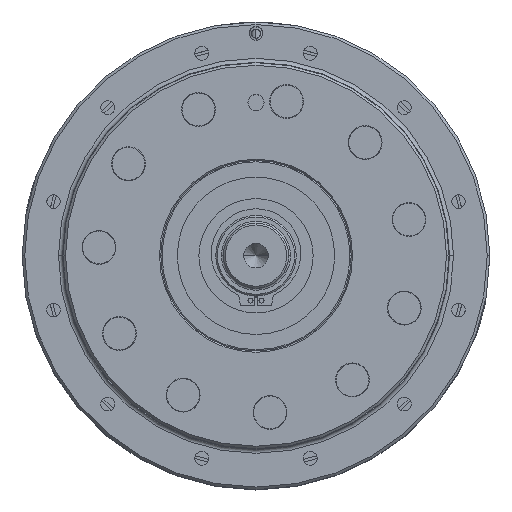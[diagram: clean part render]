
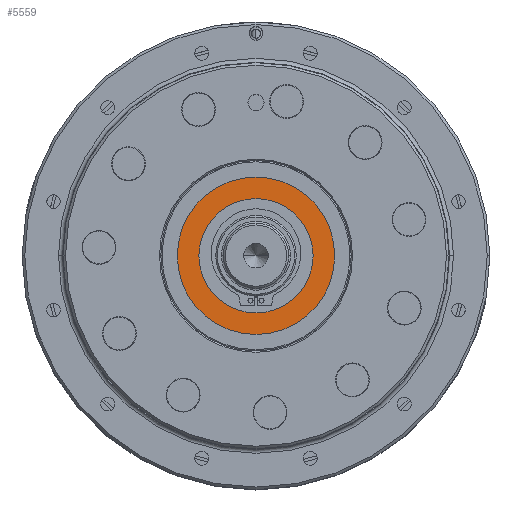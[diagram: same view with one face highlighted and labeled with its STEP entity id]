
A CAD part, top view. The second image highlights one B-rep face of the part: STEP entity #5559.
In plain terms, the highlighted planar face has unit normal (0, 0, 1).
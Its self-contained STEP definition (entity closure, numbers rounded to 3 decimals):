
#270 = AXIS2_PLACEMENT_3D ( 'NONE', #10801, #8790, #2421 ) ;
#717 = FACE_OUTER_BOUND ( 'NONE', #5808, .T. ) ;
#858 = FACE_BOUND ( 'NONE', #6017, .T. ) ;
#1492 = CARTESIAN_POINT ( 'NONE',  ( 0., 0., -1.879 ) ) ;
#1739 = CARTESIAN_POINT ( 'NONE',  ( 0., 0., -1.879 ) ) ;
#1903 = VERTEX_POINT ( 'NONE', #8570 ) ;
#2154 = DIRECTION ( 'NONE',  ( -1., 0., 0. ) ) ;
#2187 = DIRECTION ( 'NONE',  ( 1., 0., 0. ) ) ;
#2283 = CARTESIAN_POINT ( 'NONE',  ( 31., 0., -1.879 ) ) ;
#2421 = DIRECTION ( 'NONE',  ( 1., 0., 0. ) ) ;
#3032 = DIRECTION ( 'NONE',  ( 0., 0., -1. ) ) ;
#3110 = CIRCLE ( 'NONE', #10308, 22.5 ) ;
#3502 = EDGE_CURVE ( 'NONE', #6901, #1903, #3110, .T. ) ;
#3599 = DIRECTION ( 'NONE',  ( 0., 0., 1. ) ) ;
#4132 = EDGE_CURVE ( 'NONE', #1903, #6901, #4222, .T. ) ;
#4146 = DIRECTION ( 'NONE',  ( 0., 0., 1. ) ) ;
#4213 = CIRCLE ( 'NONE', #270, 31. ) ;
#4222 = CIRCLE ( 'NONE', #5740, 22.5 ) ;
#5539 = ORIENTED_EDGE ( 'NONE', *, *, #3502, .F. ) ;
#5559 = ADVANCED_FACE ( 'NONE', ( #858, #717 ), #13225, .F. ) ;
#5740 = AXIS2_PLACEMENT_3D ( 'NONE', #1492, #3599, #10894 ) ;
#5808 = EDGE_LOOP ( 'NONE', ( #6157, #11199 ) ) ;
#6017 = EDGE_LOOP ( 'NONE', ( #5539, #11622 ) ) ;
#6157 = ORIENTED_EDGE ( 'NONE', *, *, #8985, .T. ) ;
#6901 = VERTEX_POINT ( 'NONE', #8201 ) ;
#7808 = VERTEX_POINT ( 'NONE', #7973 ) ;
#7973 = CARTESIAN_POINT ( 'NONE',  ( -31., 0., -1.879 ) ) ;
#8201 = CARTESIAN_POINT ( 'NONE',  ( 22.5, 0., -1.879 ) ) ;
#8337 = DIRECTION ( 'NONE',  ( 1., 0., 0. ) ) ;
#8570 = CARTESIAN_POINT ( 'NONE',  ( -22.5, 0., -1.879 ) ) ;
#8790 = DIRECTION ( 'NONE',  ( 0., 0., 1. ) ) ;
#8859 = EDGE_CURVE ( 'NONE', #7808, #12654, #4213, .T. ) ;
#8985 = EDGE_CURVE ( 'NONE', #12654, #7808, #12682, .T. ) ;
#9469 = AXIS2_PLACEMENT_3D ( 'NONE', #1739, #12136, #2187 ) ;
#10308 = AXIS2_PLACEMENT_3D ( 'NONE', #13289, #4146, #8337 ) ;
#10801 = CARTESIAN_POINT ( 'NONE',  ( 0., 0., -1.879 ) ) ;
#10894 = DIRECTION ( 'NONE',  ( 1., 0., 0. ) ) ;
#11199 = ORIENTED_EDGE ( 'NONE', *, *, #8859, .T. ) ;
#11622 = ORIENTED_EDGE ( 'NONE', *, *, #4132, .F. ) ;
#12136 = DIRECTION ( 'NONE',  ( 0., 0., 1. ) ) ;
#12420 = CARTESIAN_POINT ( 'NONE',  ( 0., 22.5, -1.879 ) ) ;
#12654 = VERTEX_POINT ( 'NONE', #2283 ) ;
#12682 = CIRCLE ( 'NONE', #9469, 31. ) ;
#12935 = AXIS2_PLACEMENT_3D ( 'NONE', #12420, #3032, #2154 ) ;
#13225 = PLANE ( 'NONE',  #12935 ) ;
#13289 = CARTESIAN_POINT ( 'NONE',  ( 0., 0., -1.879 ) ) ;
